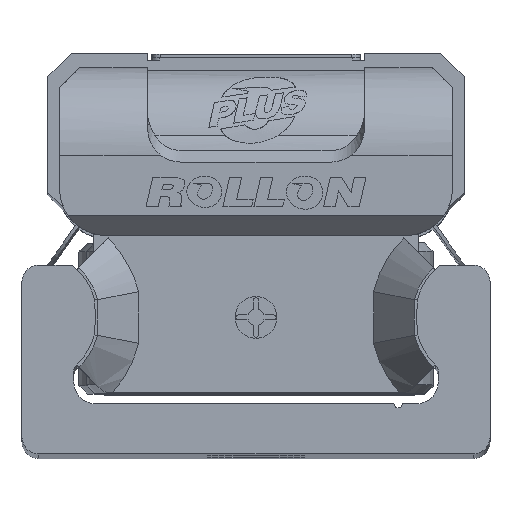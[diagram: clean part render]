
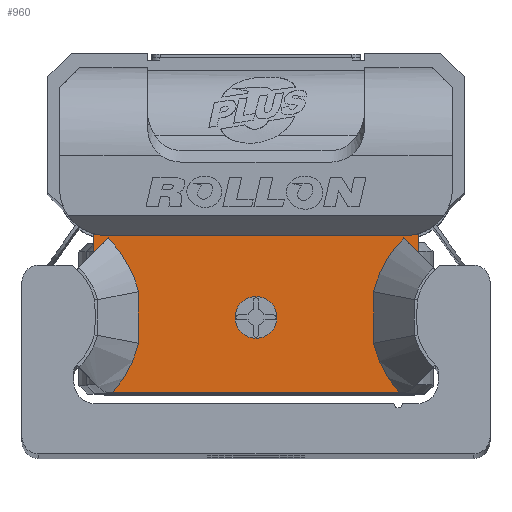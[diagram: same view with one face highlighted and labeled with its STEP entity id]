
A CAD part, top view. The second image highlights one B-rep face of the part: STEP entity #960.
In plain terms, the highlighted planar face has unit normal (0, 0, 1) as drawn and (0, 0, -1) by its records, which use the part's own axes.
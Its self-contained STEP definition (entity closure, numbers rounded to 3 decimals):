
#960 = ADVANCED_FACE( '', ( #2396, #2397 ), #2398, .F. );
#2396 = FACE_BOUND( '', #4506, .T. );
#2397 = FACE_OUTER_BOUND( '', #4507, .T. );
#2398 = PLANE( '', #4508 );
#4506 = EDGE_LOOP( '', ( #7154 ) );
#4507 = EDGE_LOOP( '', ( #7155, #7156, #7157, #7158, #7159, #7160, #7161, #7162, #7163, #7164, #7165, #7166, #7167, #7168 ) );
#4508 = AXIS2_PLACEMENT_3D( '', #7169, #7170, #7171 );
#7154 = ORIENTED_EDGE( '', *, *, #12343, .T. );
#7155 = ORIENTED_EDGE( '', *, *, #12344, .F. );
#7156 = ORIENTED_EDGE( '', *, *, #12153, .T. );
#7157 = ORIENTED_EDGE( '', *, *, #12073, .T. );
#7158 = ORIENTED_EDGE( '', *, *, #12345, .T. );
#7159 = ORIENTED_EDGE( '', *, *, #12346, .T. );
#7160 = ORIENTED_EDGE( '', *, *, #12347, .T. );
#7161 = ORIENTED_EDGE( '', *, *, #12348, .T. );
#7162 = ORIENTED_EDGE( '', *, *, #12349, .T. );
#7163 = ORIENTED_EDGE( '', *, *, #12350, .T. );
#7164 = ORIENTED_EDGE( '', *, *, #12351, .T. );
#7165 = ORIENTED_EDGE( '', *, *, #12352, .T. );
#7166 = ORIENTED_EDGE( '', *, *, #12353, .T. );
#7167 = ORIENTED_EDGE( '', *, *, #12354, .T. );
#7168 = ORIENTED_EDGE( '', *, *, #11991, .T. );
#7169 = CARTESIAN_POINT( '', ( 9.7, 4.89, -10.6 ) );
#7170 = DIRECTION( '', ( 0., 0., 1. ) );
#7171 = DIRECTION( '', ( 1., 0., 0. ) );
#11991 = EDGE_CURVE( '', #14252, #14250, #14253, .T. );
#12073 = EDGE_CURVE( '', #14393, #14397, #14399, .T. );
#12153 = EDGE_CURVE( '', #14545, #14393, #14546, .T. );
#12343 = EDGE_CURVE( '', #14863, #14863, #14864, .T. );
#12344 = EDGE_CURVE( '', #14545, #14250, #14865, .T. );
#12345 = EDGE_CURVE( '', #14397, #14866, #14867, .T. );
#12346 = EDGE_CURVE( '', #14866, #14868, #14869, .T. );
#12347 = EDGE_CURVE( '', #14868, #14870, #14871, .T. );
#12348 = EDGE_CURVE( '', #14870, #14872, #14873, .T. );
#12349 = EDGE_CURVE( '', #14872, #14874, #14875, .T. );
#12350 = EDGE_CURVE( '', #14874, #14604, #14876, .T. );
#12351 = EDGE_CURVE( '', #14604, #14877, #14878, .T. );
#12352 = EDGE_CURVE( '', #14877, #14879, #14880, .T. );
#12353 = EDGE_CURVE( '', #14879, #14881, #14882, .T. );
#12354 = EDGE_CURVE( '', #14881, #14252, #14883, .T. );
#14250 = VERTEX_POINT( '', #17516 );
#14252 = VERTEX_POINT( '', #17519 );
#14253 = LINE( '', #17520, #17521 );
#14393 = VERTEX_POINT( '', #17745 );
#14397 = VERTEX_POINT( '', #17751 );
#14399 = LINE( '', #17754, #17755 );
#14545 = VERTEX_POINT( '', #18014 );
#14546 = CIRCLE( '', #18015, 2.8 );
#14604 = VERTEX_POINT( '', #18087 );
#14863 = VERTEX_POINT( '', #18469 );
#14864 = CIRCLE( '', #18470, 1.25 );
#14865 = LINE( '', #18471, #18472 );
#14866 = VERTEX_POINT( '', #18473 );
#14867 = CIRCLE( '', #18474, 2.8 );
#14868 = VERTEX_POINT( '', #18475 );
#14869 = LINE( '', #18476, #18477 );
#14870 = VERTEX_POINT( '', #18478 );
#14871 = LINE( '', #18479, #18480 );
#14872 = VERTEX_POINT( '', #18481 );
#14873 = B_SPLINE_CURVE_WITH_KNOTS( '', 2, ( #18482, #18483, #18484, #18485, #18486 ), .UNSPECIFIED., .F., .F., ( 3, 2, 3 ), ( 0., 0.5, 1. ), .UNSPECIFIED. );
#14874 = VERTEX_POINT( '', #18487 );
#14875 = B_SPLINE_CURVE_WITH_KNOTS( '', 2, ( #18488, #18489, #18490 ), .UNSPECIFIED., .F., .F., ( 3, 3 ), ( 0., 1. ), .UNSPECIFIED. );
#14876 = B_SPLINE_CURVE_WITH_KNOTS( '', 2, ( #18491, #18492, #18493 ), .UNSPECIFIED., .F., .F., ( 3, 3 ), ( 0., 1. ), .UNSPECIFIED. );
#14877 = VERTEX_POINT( '', #18494 );
#14878 = LINE( '', #18495, #18496 );
#14879 = VERTEX_POINT( '', #18497 );
#14880 = B_SPLINE_CURVE_WITH_KNOTS( '', 2, ( #18498, #18499, #18500 ), .UNSPECIFIED., .F., .F., ( 3, 3 ), ( 0.1, 1. ), .UNSPECIFIED. );
#14881 = VERTEX_POINT( '', #18501 );
#14882 = B_SPLINE_CURVE_WITH_KNOTS( '', 2, ( #18502, #18503, #18504 ), .UNSPECIFIED., .F., .F., ( 3, 3 ), ( 0., 1. ), .UNSPECIFIED. );
#14883 = B_SPLINE_CURVE_WITH_KNOTS( '', 2, ( #18505, #18506, #18507 ), .UNSPECIFIED., .F., .F., ( 3, 3 ), ( 0., 1. ), .UNSPECIFIED. );
#17516 = CARTESIAN_POINT( '', ( -9.7, 3.494, -10.6 ) );
#17519 = CARTESIAN_POINT( '', ( -8.853, 4.366, -10.6 ) );
#17520 = CARTESIAN_POINT( '', ( -8.853, 4.366, -10.6 ) );
#17521 = VECTOR( '', #21937, 1000. );
#17745 = CARTESIAN_POINT( '', ( -8.95, 4.51, -10.6 ) );
#17751 = CARTESIAN_POINT( '', ( 8.95, 4.51, -10.6 ) );
#17754 = CARTESIAN_POINT( '', ( 9.7, 4.51, -10.6 ) );
#17755 = VECTOR( '', #22042, 1000. );
#18014 = CARTESIAN_POINT( '', ( -9.7, 4.612, -10.6 ) );
#18015 = AXIS2_PLACEMENT_3D( '', #22154, #22155, #22156 );
#18087 = CARTESIAN_POINT( '', ( 8.59, -4.893, -10.6 ) );
#18469 = CARTESIAN_POINT( '', ( 1.25, -0.39, -10.6 ) );
#18470 = AXIS2_PLACEMENT_3D( '', #22386, #22387, #22388 );
#18471 = CARTESIAN_POINT( '', ( -9.7, 4.89, -10.6 ) );
#18472 = VECTOR( '', #22389, 1000. );
#18473 = CARTESIAN_POINT( '', ( 9.7, 4.612, -10.6 ) );
#18474 = AXIS2_PLACEMENT_3D( '', #22390, #22391, #22392 );
#18475 = CARTESIAN_POINT( '', ( 9.7, 3.497, -10.6 ) );
#18476 = CARTESIAN_POINT( '', ( 9.7, 4.89, -10.6 ) );
#18477 = VECTOR( '', #22393, 1000. );
#18478 = CARTESIAN_POINT( '', ( 8.853, 4.366, -10.6 ) );
#18479 = CARTESIAN_POINT( '', ( 9.7, 3.501, -10.6 ) );
#18480 = VECTOR( '', #22394, 1000. );
#18481 = CARTESIAN_POINT( '', ( 7.031, 1.144, -10.6 ) );
#18482 = CARTESIAN_POINT( '', ( 8.853, 4.366, -10.6 ) );
#18483 = CARTESIAN_POINT( '', ( 8.182, 3.708, -10.6 ) );
#18484 = CARTESIAN_POINT( '', ( 7.715, 2.883, -10.6 ) );
#18485 = CARTESIAN_POINT( '', ( 7.249, 2.058, -10.6 ) );
#18486 = CARTESIAN_POINT( '', ( 7.031, 1.144, -10.6 ) );
#18487 = CARTESIAN_POINT( '', ( 7.031, -1.944, -10.6 ) );
#18488 = CARTESIAN_POINT( '', ( 7.031, 1.144, -10.6 ) );
#18489 = CARTESIAN_POINT( '', ( 6.929, -0.4, -10.6 ) );
#18490 = CARTESIAN_POINT( '', ( 7.031, -1.944, -10.6 ) );
#18491 = CARTESIAN_POINT( '', ( 7.031, -1.944, -10.6 ) );
#18492 = CARTESIAN_POINT( '', ( 7.429, -3.615, -10.6 ) );
#18493 = CARTESIAN_POINT( '', ( 8.588, -4.89, -10.6 ) );
#18494 = CARTESIAN_POINT( '', ( -8.59, -4.893, -10.6 ) );
#18495 = CARTESIAN_POINT( '', ( 9.7, -4.89, -10.6 ) );
#18496 = VECTOR( '', #22395, 1000. );
#18497 = CARTESIAN_POINT( '', ( -7.031, -1.944, -10.6 ) );
#18498 = CARTESIAN_POINT( '', ( -8.587, -4.89, -10.6 ) );
#18499 = CARTESIAN_POINT( '', ( -7.432, -3.63, -10.6 ) );
#18500 = CARTESIAN_POINT( '', ( -7.031, -1.944, -10.6 ) );
#18501 = CARTESIAN_POINT( '', ( -7.031, 1.144, -10.6 ) );
#18502 = CARTESIAN_POINT( '', ( -7.031, -1.944, -10.6 ) );
#18503 = CARTESIAN_POINT( '', ( -6.929, -0.4, -10.6 ) );
#18504 = CARTESIAN_POINT( '', ( -7.031, 1.144, -10.6 ) );
#18505 = CARTESIAN_POINT( '', ( -7.031, 1.144, -10.6 ) );
#18506 = CARTESIAN_POINT( '', ( -7.477, 3.018, -10.6 ) );
#18507 = CARTESIAN_POINT( '', ( -8.853, 4.366, -10.6 ) );
#21937 = DIRECTION( '', ( -0.7, -0.714, 0. ) );
#22042 = DIRECTION( '', ( 1., 0., 0. ) );
#22154 = CARTESIAN_POINT( '', ( -8.95, 7.31, -10.6 ) );
#22155 = DIRECTION( '', ( 0., 0., 1. ) );
#22156 = DIRECTION( '', ( 1., 0., 0. ) );
#22386 = CARTESIAN_POINT( '', ( 0., -0.39, -10.6 ) );
#22387 = DIRECTION( '', ( 0., 0., 1. ) );
#22388 = DIRECTION( '', ( 1., 0., 0. ) );
#22389 = DIRECTION( '', ( 0., -1., 0. ) );
#22390 = CARTESIAN_POINT( '', ( 8.95, 7.31, -10.6 ) );
#22391 = DIRECTION( '', ( 0., 0., 1. ) );
#22392 = DIRECTION( '', ( 1., 0., 0. ) );
#22393 = DIRECTION( '', ( 0., -1., 0. ) );
#22394 = DIRECTION( '', ( -0.7, 0.714, 0. ) );
#22395 = DIRECTION( '', ( -1., 0., 0. ) );
